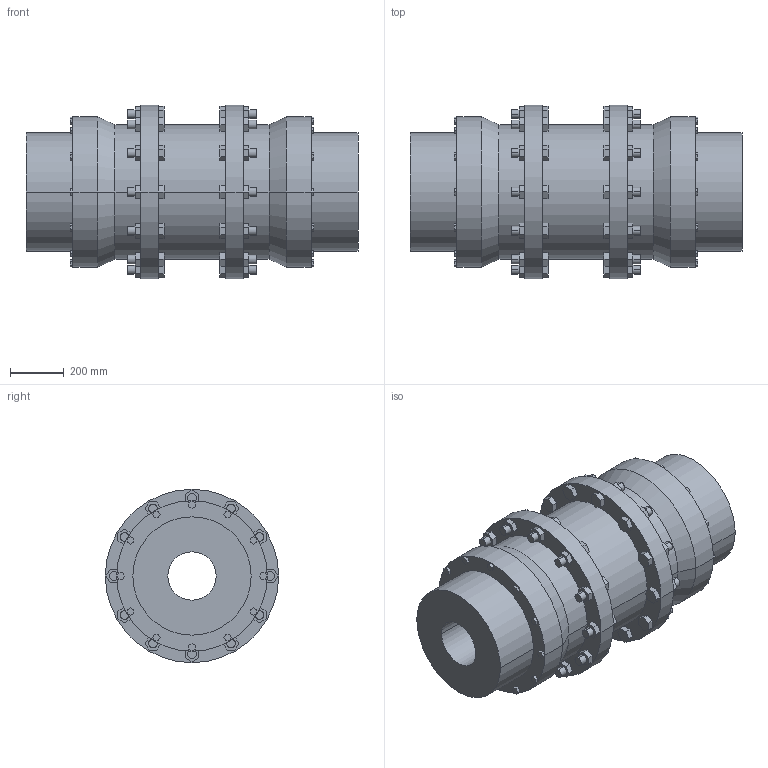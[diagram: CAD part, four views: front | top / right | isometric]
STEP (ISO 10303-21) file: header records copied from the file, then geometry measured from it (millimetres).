
FILE_DESCRIPTION((''),'2;1');
FILE_NAME('A19029600-0_ASM','2018-10-17T',('AB_Roschiwal'),('RENK AG'),'PRO/ENGINEER BY PARAMETRIC TECHNOLOGY CORPORATION, 2015440','PRO/ENGINEER BY PARAMETRIC TECHNOLOGY CORPORATION, 2015440','');
FILE_SCHEMA(('CONFIG_CONTROL_DESIGN'));
Length unit declared in the file: millimetre
Products named in the file (3): SBLK265_GEHAEUSE; SBLK265_NABE; A19029600-0_ASM
Assembly tree (3 placements, depth 2):
  A19029600-0_ASM
    SBLK265_GEHAEUSE
    SBLK265_NABE  x2
Bounding box: 1236 x 645 x 645 mm (x, y, z)
Volume: 150703105.9 mm3; surface area: 5589541.3 mm2
Topology: 3 solids, 3 shells, 632 faces, 1552 edges, 1032 vertices
Faces by surface type: plane 544, cylinder 84, cone 4
Entity records: 18164 total; most frequent: CARTESIAN_POINT 3170, ORIENTED_EDGE 3056, DIRECTION 2932, EDGE_CURVE 1528, VECTOR 1376, LINE 1376, VERTEX_POINT 1016, AXIS2_PLACEMENT_3D 778
